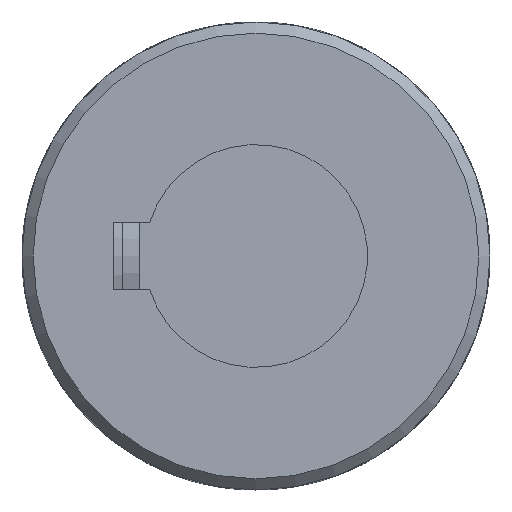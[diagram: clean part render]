
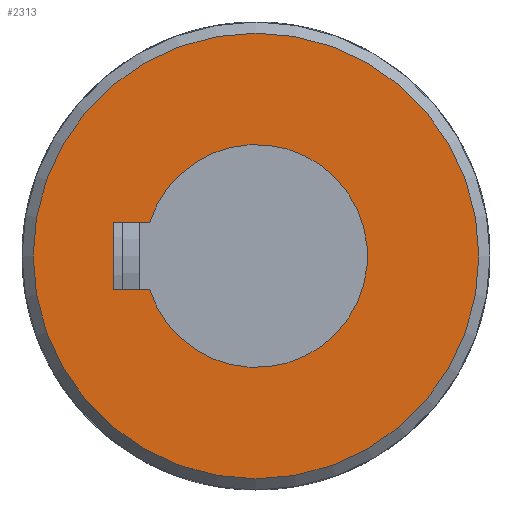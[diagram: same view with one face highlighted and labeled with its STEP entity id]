
A CAD part, front view. The second image highlights one B-rep face of the part: STEP entity #2313.
In plain terms, the highlighted planar face has unit normal (0, -1, 0).
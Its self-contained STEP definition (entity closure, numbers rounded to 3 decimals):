
#123=LINE('',#4181,#192);
#127=LINE('',#4204,#196);
#129=LINE('',#4212,#198);
#192=VECTOR('',#2981,3.261);
#196=VECTOR('',#2993,6.);
#198=VECTOR('',#2997,3.261);
#260=PLANE('',#2536);
#488=FACE_BOUND('',#774,.T.);
#592=FACE_OUTER_BOUND('',#773,.T.);
#773=EDGE_LOOP('',(#1928));
#774=EDGE_LOOP('',(#1929,#1930,#1931,#1932));
#918=CIRCLE('',#2525,10.);
#922=CIRCLE('',#2534,20.);
#1096=VERTEX_POINT('',#4178);
#1097=VERTEX_POINT('',#4180);
#1100=VERTEX_POINT('',#4190);
#1102=VERTEX_POINT('',#4202);
#1107=VERTEX_POINT('',#4259);
#1378=EDGE_CURVE('',#1097,#1096,#123,.T.);
#1382=EDGE_CURVE('',#1100,#1097,#918,.T.);
#1386=EDGE_CURVE('',#1096,#1102,#127,.T.);
#1389=EDGE_CURVE('',#1102,#1100,#129,.T.);
#1395=EDGE_CURVE('',#1107,#1107,#922,.T.);
#1928=ORIENTED_EDGE('',*,*,#1395,.F.);
#1929=ORIENTED_EDGE('',*,*,#1386,.T.);
#1930=ORIENTED_EDGE('',*,*,#1389,.T.);
#1931=ORIENTED_EDGE('',*,*,#1382,.T.);
#1932=ORIENTED_EDGE('',*,*,#1378,.T.);
#2313=ADVANCED_FACE('',(#592,#488),#260,.F.);
#2525=AXIS2_PLACEMENT_3D('',#4191,#2987,#2988);
#2534=AXIS2_PLACEMENT_3D('',#4260,#3010,#3011);
#2536=AXIS2_PLACEMENT_3D('',#4484,#3018,#3019);
#2981=DIRECTION('',(0.,0.,-1.));
#2987=DIRECTION('center_axis',(0.,1.,0.));
#2988=DIRECTION('ref_axis',(-0.3,0.,0.954));
#2993=DIRECTION('',(-1.,0.,0.));
#2997=DIRECTION('',(0.,0.,1.));
#3010=DIRECTION('center_axis',(0.,1.,0.));
#3011=DIRECTION('ref_axis',(1.,0.,0.));
#3018=DIRECTION('center_axis',(0.,1.,0.));
#3019=DIRECTION('ref_axis',(0.,0.,1.));
#4178=CARTESIAN_POINT('',(3.,-51.,-12.8));
#4180=CARTESIAN_POINT('',(3.,-51.,-9.539));
#4181=CARTESIAN_POINT('',(3.,-51.,-4.77));
#4190=CARTESIAN_POINT('',(-3.,-51.,-9.539));
#4191=CARTESIAN_POINT('Origin',(0.,-51.,0.));
#4202=CARTESIAN_POINT('',(-3.,-51.,-12.8));
#4204=CARTESIAN_POINT('',(1.5,-51.,-12.8));
#4212=CARTESIAN_POINT('',(-3.,-51.,-6.4));
#4259=CARTESIAN_POINT('',(-20.,-51.,0.));
#4260=CARTESIAN_POINT('Origin',(0.,-51.,0.));
#4484=CARTESIAN_POINT('Origin',(0.,-51.,0.));
